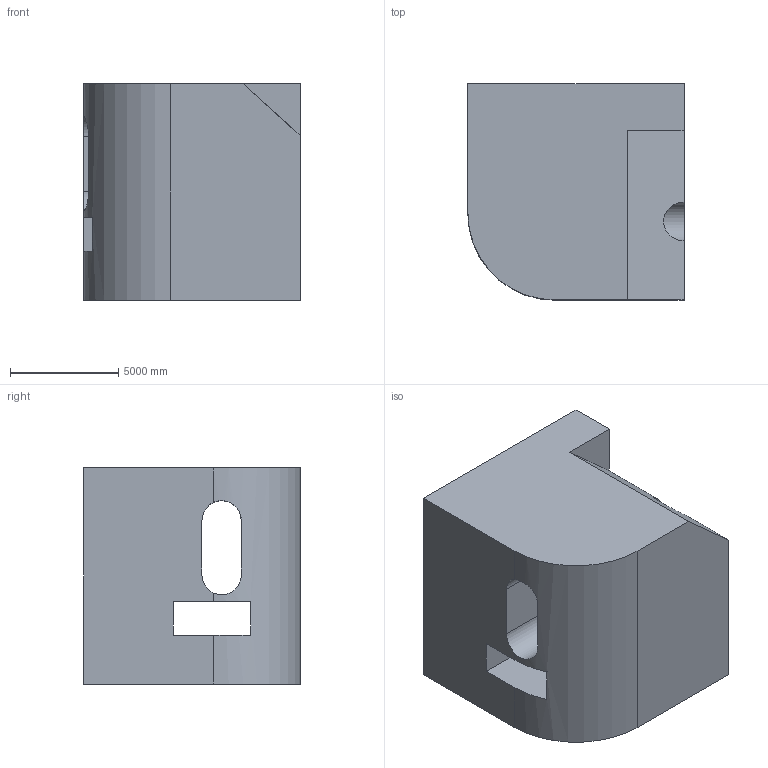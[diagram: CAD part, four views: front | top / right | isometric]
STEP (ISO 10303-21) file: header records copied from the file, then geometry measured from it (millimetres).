
FILE_DESCRIPTION (( 'STEP AP203' ), '1' );
FILE_NAME ('1349.STEP', '2022-08-18T13:59:00', ( 'user' ), ( '' ), 'SwSTEP 2.0', 'SolidWorks 2021', '' );
FILE_SCHEMA (( 'CONFIG_CONTROL_DESIGN' ));
Length unit declared in the file: centimetre
Products named in the file (1): 1349
Bounding box: 10000 x 10000 x 10000 mm (x, y, z)
Volume: 814723448107.6 mm3; surface area: 745121835.6 mm2
Topology: 1 solids, 1 shells, 18 faces, 57 edges, 38 vertices
Faces by surface type: plane 14, cylinder 4
Entity records: 869 total; most frequent: CARTESIAN_POINT 280, ORIENTED_EDGE 114, DIRECTION 99, EDGE_CURVE 57, LINE 43, VECTOR 43, VERTEX_POINT 38, AXIS2_PLACEMENT_3D 28
